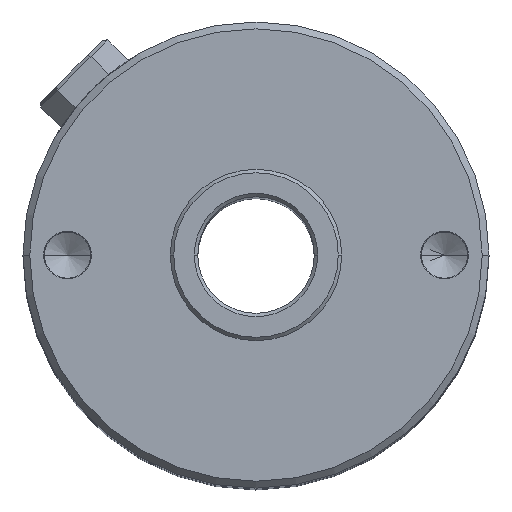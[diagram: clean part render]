
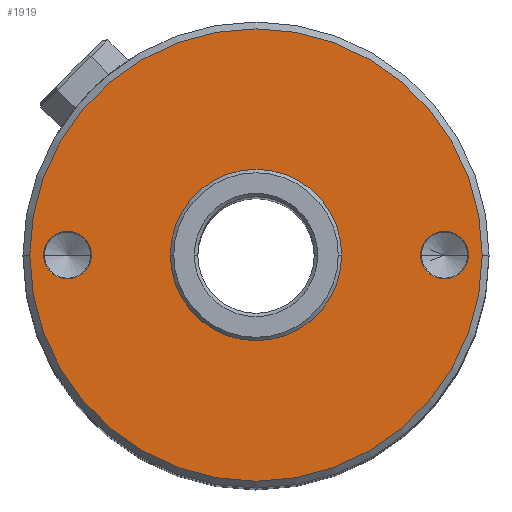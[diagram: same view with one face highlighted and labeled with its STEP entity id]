
A CAD part, top view. The second image highlights one B-rep face of the part: STEP entity #1919.
In plain terms, the highlighted planar face has unit normal (0, 0, 1).
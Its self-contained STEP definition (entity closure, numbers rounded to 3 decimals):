
#7 = CARTESIAN_POINT ( 'NONE',  ( -27.5, 0., 160. ) ) ;
#11 = EDGE_CURVE ( 'NONE', #1213, #1735, #360, .T. ) ;
#41 = ORIENTED_EDGE ( 'NONE', *, *, #11, .T. ) ;
#43 = DIRECTION ( 'NONE',  ( 0., 0., -1. ) ) ;
#92 = DIRECTION ( 'NONE',  ( 1., 0., 0. ) ) ;
#95 = CARTESIAN_POINT ( 'NONE',  ( 0., 0., 160. ) ) ;
#103 = DIRECTION ( 'NONE',  ( 0., 0., 1. ) ) ;
#126 = DIRECTION ( 'NONE',  ( 1., 0., 0. ) ) ;
#144 = CARTESIAN_POINT ( 'NONE',  ( -24.025, 0., 160. ) ) ;
#145 = VERTEX_POINT ( 'NONE', #349 ) ;
#146 = DIRECTION ( 'NONE',  ( 1., 0., 0. ) ) ;
#151 = DIRECTION ( 'NONE',  ( 0., 0., -1. ) ) ;
#160 = EDGE_CURVE ( 'NONE', #145, #589, #1150, .T. ) ;
#282 = AXIS2_PLACEMENT_3D ( 'NONE', #775, #1497, #1581 ) ;
#340 = ORIENTED_EDGE ( 'NONE', *, *, #2202, .T. ) ;
#346 = CARTESIAN_POINT ( 'NONE',  ( 27.5, 0., 160. ) ) ;
#349 = CARTESIAN_POINT ( 'NONE',  ( 30.975, 0., 160. ) ) ;
#360 = CIRCLE ( 'NONE', #1954, 33. ) ;
#385 = VERTEX_POINT ( 'NONE', #144 ) ;
#391 = AXIS2_PLACEMENT_3D ( 'NONE', #1711, #1357, #92 ) ;
#468 = DIRECTION ( 'NONE',  ( 1., 0., 0. ) ) ;
#517 = EDGE_CURVE ( 'NONE', #385, #807, #1309, .T. ) ;
#554 = DIRECTION ( 'NONE',  ( 0., 0., 1. ) ) ;
#589 = VERTEX_POINT ( 'NONE', #1391 ) ;
#637 = CARTESIAN_POINT ( 'NONE',  ( -27.5, 0., 160. ) ) ;
#650 = CARTESIAN_POINT ( 'NONE',  ( -12.5, 0., 160. ) ) ;
#711 = ORIENTED_EDGE ( 'NONE', *, *, #160, .T. ) ;
#753 = CARTESIAN_POINT ( 'NONE',  ( -33., 0., 160. ) ) ;
#775 = CARTESIAN_POINT ( 'NONE',  ( 27.5, 0., 160. ) ) ;
#795 = CIRCLE ( 'NONE', #391, 12.5 ) ;
#807 = VERTEX_POINT ( 'NONE', #1114 ) ;
#810 = ORIENTED_EDGE ( 'NONE', *, *, #1238, .F. ) ;
#875 = PLANE ( 'NONE',  #2137 ) ;
#878 = DIRECTION ( 'NONE',  ( 0., 0., 1. ) ) ;
#979 = DIRECTION ( 'NONE',  ( 1., 0., 0. ) ) ;
#1018 = CIRCLE ( 'NONE', #1519, 3.475 ) ;
#1054 = CARTESIAN_POINT ( 'NONE',  ( 0., 0., 160. ) ) ;
#1062 = CIRCLE ( 'NONE', #1651, 3.475 ) ;
#1114 = CARTESIAN_POINT ( 'NONE',  ( -30.975, 0., 160. ) ) ;
#1120 = DIRECTION ( 'NONE',  ( 1., 0., 0. ) ) ;
#1150 = CIRCLE ( 'NONE', #282, 3.475 ) ;
#1180 = CARTESIAN_POINT ( 'NONE',  ( 0., 0., 160. ) ) ;
#1190 = CIRCLE ( 'NONE', #1712, 12.5 ) ;
#1196 = CARTESIAN_POINT ( 'NONE',  ( 0., 0., 160. ) ) ;
#1197 = FACE_OUTER_BOUND ( 'NONE', #1767, .T. ) ;
#1213 = VERTEX_POINT ( 'NONE', #753 ) ;
#1238 = EDGE_CURVE ( 'NONE', #1920, #2032, #1190, .T. ) ;
#1241 = CARTESIAN_POINT ( 'NONE',  ( 33., 0., 160. ) ) ;
#1251 = ORIENTED_EDGE ( 'NONE', *, *, #2183, .T. ) ;
#1275 = FACE_BOUND ( 'NONE', #1487, .T. ) ;
#1278 = AXIS2_PLACEMENT_3D ( 'NONE', #637, #151, #2212 ) ;
#1280 = CARTESIAN_POINT ( 'NONE',  ( 12.5, 0., 160. ) ) ;
#1287 = AXIS2_PLACEMENT_3D ( 'NONE', #95, #103, #126 ) ;
#1309 = CIRCLE ( 'NONE', #1278, 3.475 ) ;
#1357 = DIRECTION ( 'NONE',  ( 0., 0., 1. ) ) ;
#1377 = ORIENTED_EDGE ( 'NONE', *, *, #1719, .F. ) ;
#1391 = CARTESIAN_POINT ( 'NONE',  ( 24.025, 0., 160. ) ) ;
#1487 = EDGE_LOOP ( 'NONE', ( #2185, #1251 ) ) ;
#1497 = DIRECTION ( 'NONE',  ( 0., 0., -1. ) ) ;
#1517 = EDGE_LOOP ( 'NONE', ( #810, #1377 ) ) ;
#1519 = AXIS2_PLACEMENT_3D ( 'NONE', #7, #43, #146 ) ;
#1535 = CIRCLE ( 'NONE', #1287, 33. ) ;
#1581 = DIRECTION ( 'NONE',  ( 1., 0., 0. ) ) ;
#1651 = AXIS2_PLACEMENT_3D ( 'NONE', #346, #1941, #2068 ) ;
#1676 = FACE_BOUND ( 'NONE', #2074, .T. ) ;
#1711 = CARTESIAN_POINT ( 'NONE',  ( 0., 0., 160. ) ) ;
#1712 = AXIS2_PLACEMENT_3D ( 'NONE', #1196, #878, #979 ) ;
#1719 = EDGE_CURVE ( 'NONE', #2032, #1920, #795, .T. ) ;
#1735 = VERTEX_POINT ( 'NONE', #1241 ) ;
#1767 = EDGE_LOOP ( 'NONE', ( #41, #1906 ) ) ;
#1906 = ORIENTED_EDGE ( 'NONE', *, *, #2113, .T. ) ;
#1919 = ADVANCED_FACE ( 'NONE', ( #1197, #1676, #1275, #2092 ), #875, .T. ) ;
#1920 = VERTEX_POINT ( 'NONE', #650 ) ;
#1941 = DIRECTION ( 'NONE',  ( 0., 0., -1. ) ) ;
#1954 = AXIS2_PLACEMENT_3D ( 'NONE', #1180, #554, #1120 ) ;
#1996 = DIRECTION ( 'NONE',  ( 0., 0., 1. ) ) ;
#2032 = VERTEX_POINT ( 'NONE', #1280 ) ;
#2068 = DIRECTION ( 'NONE',  ( 1., 0., 0. ) ) ;
#2074 = EDGE_LOOP ( 'NONE', ( #711, #340 ) ) ;
#2092 = FACE_BOUND ( 'NONE', #1517, .T. ) ;
#2113 = EDGE_CURVE ( 'NONE', #1735, #1213, #1535, .T. ) ;
#2137 = AXIS2_PLACEMENT_3D ( 'NONE', #1054, #1996, #468 ) ;
#2183 = EDGE_CURVE ( 'NONE', #807, #385, #1018, .T. ) ;
#2185 = ORIENTED_EDGE ( 'NONE', *, *, #517, .T. ) ;
#2202 = EDGE_CURVE ( 'NONE', #589, #145, #1062, .T. ) ;
#2212 = DIRECTION ( 'NONE',  ( 1., 0., 0. ) ) ;
